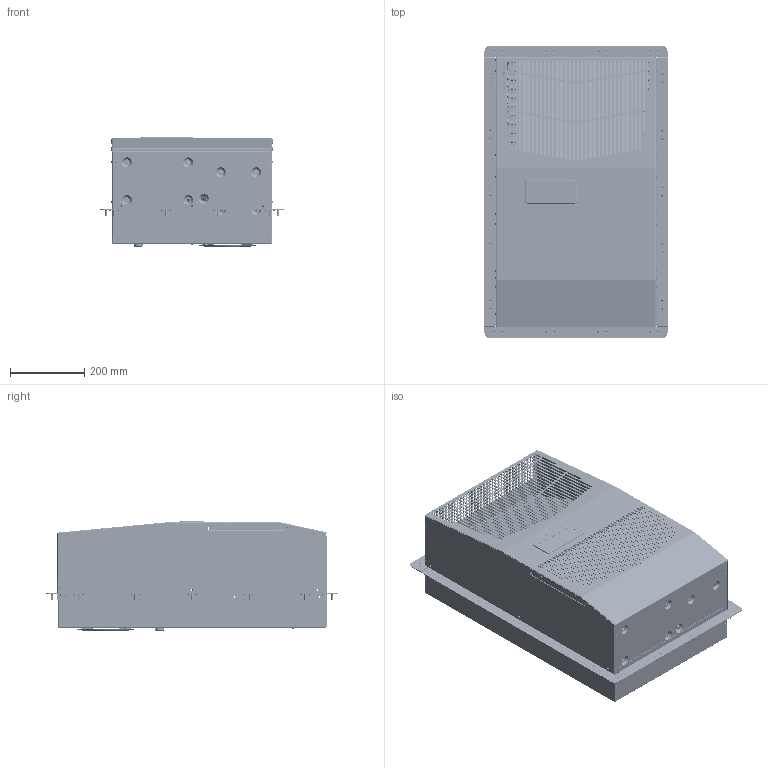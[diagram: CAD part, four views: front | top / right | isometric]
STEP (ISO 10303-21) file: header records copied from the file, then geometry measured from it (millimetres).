
FILE_DESCRIPTION (( 'STEP AP203' ), '1' );
FILE_NAME ('G280426G101.STEP', '2013-04-15T16:03:19', ( 'User' ), ( 'Pentair Inc' ), 'SwSTEP 2.0', 'SolidWorks 2010', '' );
FILE_SCHEMA (( 'CONFIG_CONTROL_DESIGN' ));
Length unit declared in the file: inch
Products named in the file (43): G280426G101; 89078953; 89101704; 89059345_CR-PHMS 0.19-24x0.375x0.375-N; 10-1014-28_CR-PHMS 0.138-32x0.375x0.375-C; 10-1061-16; 10-1002-455; 38-2023-00; 89076937; 89076938; 89076939; 89059134; 89081520; 89059127; 89081518; 89059130; 89081519; 10-1014-201; H60832006EB; 11-7810-88_as installed; 89101701_as installed; 89101702_as installed; 89075090; 11-7810-87; 89100391; 89100392; 89100393; 89100394; 89098953; 89100370; 10-1097-03_AS USED; 10-1015-97_Internal Tooth LW Type A-0.19; 89096883; 10-1131-10; 10-1002-484; 89075089; 12-1012-01; 10-1014-34; 87925524_as installed; 89078951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
Assembly tree (102 placements, depth 3):
  G280426G101
    10-1015-97_Internal Tooth LW Type A-0.19  x3
    10-1014-34  x17
    10-1014-28_CR-PHMS 0.138-32x0.375x0.375-C  x2
    89101701_as installed  x2
    11-7810-87  x2
    87925524_as installed
    89078951
    89059345_CR-PHMS 0.19-24x0.375x0.375-N
    11-7810-88_as installed
    12-1012-01
    89059127  x2
      10-1014-201
      89081518
    89075090
    89101531
    89101704  x2
    89059130
      H60832006EB  x2
      10-1014-201  x4
      89081519
    10-1131-10
    89076937
      89076939
      89076938
    89059134
      10-1014-201  x4
      89081520
      H60832006EB  x2
    89096883
    12-1012-00
    38-2023-00
    10-1002-484
    89074296
    89078953
    10-1002-455
    89075089
    89100391
      10-1097-03_AS USED  x22
      89100370
      89098953
      89100394
      89100393
      89100392
    89101702_as installed  x2
    10-1061-16
Bounding box: 492.76 x 786.33 x 295.66 mm (x, y, z)
Volume: 4832781.4 mm3; surface area: 4903694 mm2
Topology: 107 solids, 123 shells, 11000 faces, 29359 edges, 18724 vertices
Faces by surface type: plane 7195, cylinder 1935, torus 753, bspline 588, cone 404, sphere 125
Entity records: 252982 total; most frequent: CARTESIAN_POINT 62549, ORIENTED_EDGE 38888, DIRECTION 36607, EDGE_CURVE 19472, VECTOR 14457, LINE 14457, VERTEX_POINT 12637, AXIS2_PLACEMENT_3D 11075
